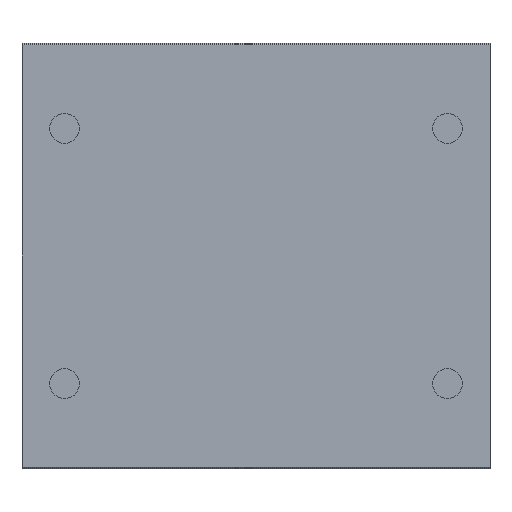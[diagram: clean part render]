
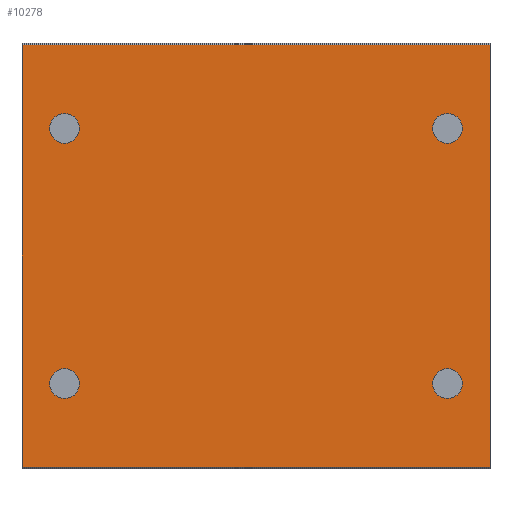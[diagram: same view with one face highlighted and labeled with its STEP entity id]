
A CAD part, front view. The second image highlights one B-rep face of the part: STEP entity #10278.
In plain terms, the highlighted planar face has unit normal (0, -1, 0).
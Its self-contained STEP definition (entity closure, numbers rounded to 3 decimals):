
#336=CIRCLE('',#10880,3.5);
#337=CIRCLE('',#10881,3.5);
#338=CIRCLE('',#10882,3.5);
#339=CIRCLE('',#10883,3.5);
#1032=ORIENTED_EDGE('',*,*,#4201,.T.);
#1033=ORIENTED_EDGE('',*,*,#4202,.F.);
#1034=ORIENTED_EDGE('',*,*,#4203,.F.);
#1035=ORIENTED_EDGE('',*,*,#4204,.F.);
#1036=ORIENTED_EDGE('',*,*,#4155,.T.);
#1037=ORIENTED_EDGE('',*,*,#4205,.F.);
#1038=ORIENTED_EDGE('',*,*,#4206,.F.);
#1039=ORIENTED_EDGE('',*,*,#4199,.T.);
#4155=EDGE_CURVE('',#5746,#5745,#6807,.T.);
#4199=EDGE_CURVE('',#5780,#5746,#6851,.T.);
#4201=EDGE_CURVE('',#5781,#5781,#336,.T.);
#4202=EDGE_CURVE('',#5782,#5782,#337,.T.);
#4203=EDGE_CURVE('',#5783,#5783,#338,.T.);
#4204=EDGE_CURVE('',#5784,#5784,#339,.T.);
#4205=EDGE_CURVE('',#5785,#5745,#6853,.T.);
#4206=EDGE_CURVE('',#5780,#5785,#6854,.T.);
#5745=VERTEX_POINT('',#15474);
#5746=VERTEX_POINT('',#15476);
#5780=VERTEX_POINT('',#15561);
#5781=VERTEX_POINT('',#15565);
#5782=VERTEX_POINT('',#15567);
#5783=VERTEX_POINT('',#15569);
#5784=VERTEX_POINT('',#15571);
#5785=VERTEX_POINT('',#15573);
#6807=LINE('',#15475,#7787);
#6851=LINE('',#15560,#7831);
#6853=LINE('',#15572,#7833);
#6854=LINE('',#15574,#7834);
#7787=VECTOR('',#12094,1000.);
#7831=VECTOR('',#12152,1000.);
#7833=VECTOR('',#12164,1000.);
#7834=VECTOR('',#12165,1000.);
#8749=EDGE_LOOP('',(#1032));
#8750=EDGE_LOOP('',(#1033));
#8751=EDGE_LOOP('',(#1034));
#8752=EDGE_LOOP('',(#1035));
#8753=EDGE_LOOP('',(#1036,#1037,#1038,#1039));
#9379=FACE_BOUND('',#8749,.T.);
#9380=FACE_BOUND('',#8750,.T.);
#9381=FACE_BOUND('',#8751,.T.);
#9382=FACE_BOUND('',#8752,.T.);
#9383=FACE_BOUND('',#8753,.T.);
#10009=PLANE('',#10879);
#10278=ADVANCED_FACE('',(#9379,#9380,#9381,#9382,#9383),#10009,.F.);
#10879=AXIS2_PLACEMENT_3D('',#15563,#12154,#12155);
#10880=AXIS2_PLACEMENT_3D('',#15564,#12156,#12157);
#10881=AXIS2_PLACEMENT_3D('',#15566,#12158,#12159);
#10882=AXIS2_PLACEMENT_3D('',#15568,#12160,#12161);
#10883=AXIS2_PLACEMENT_3D('',#15570,#12162,#12163);
#12094=DIRECTION('',(0.,0.,-1.));
#12152=DIRECTION('',(-1.,0.,0.));
#12154=DIRECTION('',(0.,1.,0.));
#12155=DIRECTION('',(0.,0.,1.));
#12156=DIRECTION('',(0.,1.,0.));
#12157=DIRECTION('',(0.,0.,1.));
#12158=DIRECTION('',(0.,-1.,0.));
#12159=DIRECTION('',(0.,0.,-1.));
#12160=DIRECTION('',(0.,-1.,0.));
#12161=DIRECTION('',(0.,0.,-1.));
#12162=DIRECTION('',(0.,-1.,0.));
#12163=DIRECTION('',(0.,0.,-1.));
#12164=DIRECTION('',(-1.,0.,0.));
#12165=DIRECTION('',(0.,0.,-1.));
#15474=CARTESIAN_POINT('',(0.,0.,-49.7));
#15475=CARTESIAN_POINT('',(0.,0.,49.7));
#15476=CARTESIAN_POINT('',(0.,0.,49.7));
#15560=CARTESIAN_POINT('',(110.,0.,49.7));
#15561=CARTESIAN_POINT('',(110.,0.,49.7));
#15563=CARTESIAN_POINT('',(110.,0.,49.7));
#15564=CARTESIAN_POINT('',(100.,0.,30.));
#15565=CARTESIAN_POINT('',(100.,0.,33.5));
#15566=CARTESIAN_POINT('',(100.,0.,-30.));
#15567=CARTESIAN_POINT('',(100.,0.,-33.5));
#15568=CARTESIAN_POINT('',(10.,0.,-30.));
#15569=CARTESIAN_POINT('',(10.,0.,-33.5));
#15570=CARTESIAN_POINT('',(10.,0.,30.));
#15571=CARTESIAN_POINT('',(10.,0.,26.5));
#15572=CARTESIAN_POINT('',(110.,0.,-49.7));
#15573=CARTESIAN_POINT('',(110.,0.,-49.7));
#15574=CARTESIAN_POINT('',(110.,0.,49.7));
